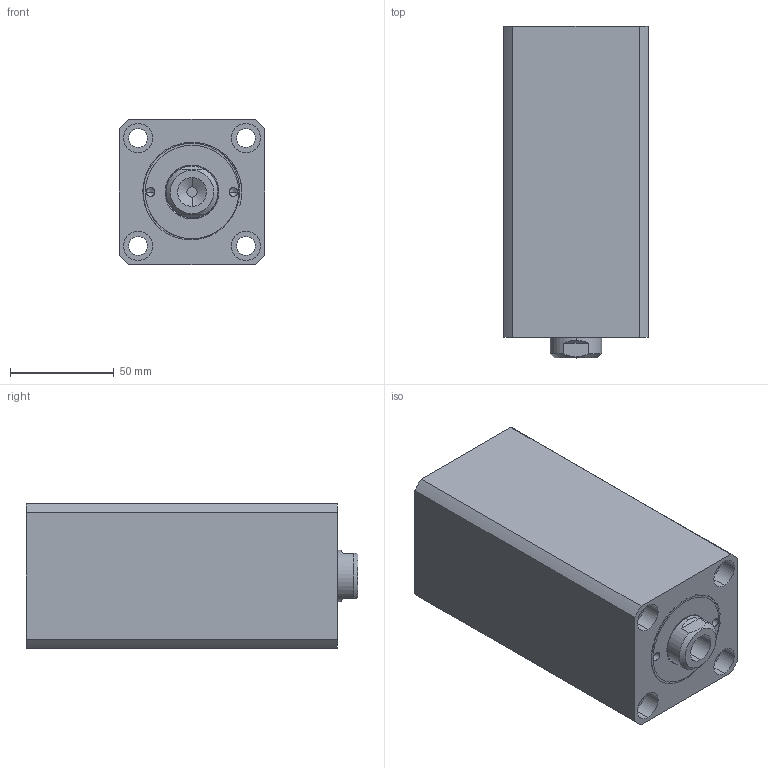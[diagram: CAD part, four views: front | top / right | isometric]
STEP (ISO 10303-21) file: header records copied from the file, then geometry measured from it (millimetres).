
FILE_DESCRIPTION (( 'STEP AP214' ), '1' );
FILE_NAME ('chtb-sdmb40x95n_asm.STEP', '2018-06-07T02:44:26', ( 'Windows' ), ( 'Microsoft' ), 'SwSTEP 2.0', 'SolidWorks 2015', '' );
FILE_SCHEMA (( 'AUTOMOTIVE_DESIGN' ));
Length unit declared in the file: millimetre
Products named in the file (4): CHTB-SDMB40X95NBT; CHTB-SD40X95NHSG; chtb-sdmb40x95n_asm; CHTB-SD40QG
Assembly tree (3 placements, depth 2):
  chtb-sdmb40x95n_asm
    CHTB-SD40X95NHSG
    CHTB-SDMB40X95NBT
    CHTB-SD40QG
Bounding box: 70 x 160 x 70 mm (x, y, z)
Volume: 602788.8 mm3; surface area: 117377.9 mm2
Topology: 3 solids, 3 shells, 155 faces, 407 edges, 270 vertices
Faces by surface type: cylinder 84, plane 34, torus 14, bspline 14, cone 9
Entity records: 10007 total; most frequent: CARTESIAN_POINT 6085, ORIENTED_EDGE 802, DIRECTION 758, EDGE_CURVE 401, AXIS2_PLACEMENT_3D 322, VERTEX_POINT 270, EDGE_LOOP 191, CIRCLE 175
